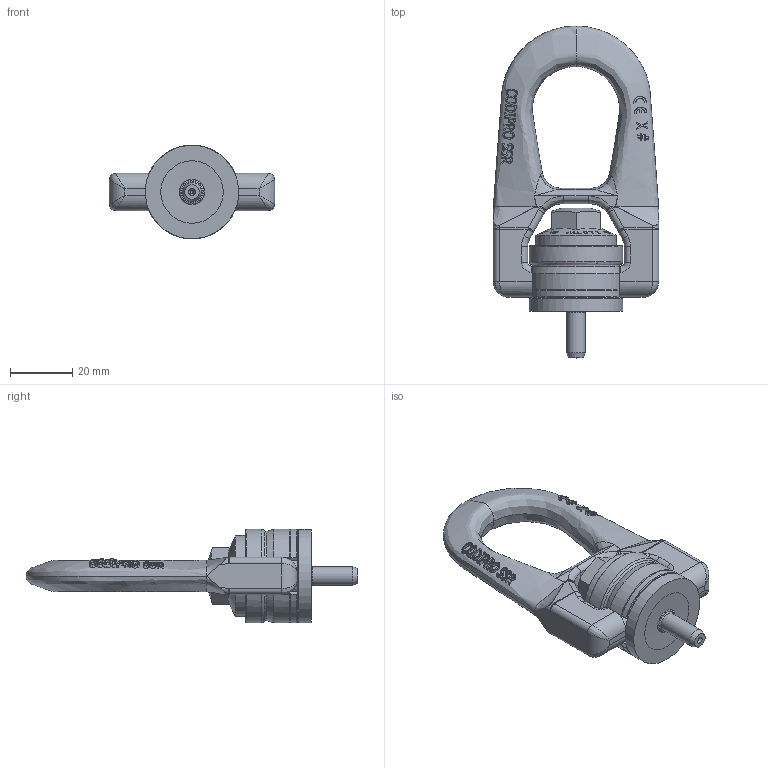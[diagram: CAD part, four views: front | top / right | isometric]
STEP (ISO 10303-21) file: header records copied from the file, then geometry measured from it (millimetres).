
FILE_DESCRIPTION(/* description */ (''),/* implementation_level */ '2;1');
FILE_NAME(/* name */ 'W:\CODIPRO\DOCUMENTS\Plans A NE PAS DIFFUSER !!!\Fichiers STEP\Gamme 2018\Produits NON GRADUP\SS DSR\SS DSR M6.stp',/* time_stamp */ '2017-09-26T13:03:49+02:00',/* author */ ('rklenes'),/* organization */ (''),/* preprocessor_version */ 'ST-DEVELOPER v16.5',/* originating_system */ 'Autodesk Inventor 2017',/* authorisation */ '');
FILE_SCHEMA (('AUTOMOTIVE_DESIGN { 1 0 10303 214 3 1 1 }'));
Products named in the file (5): SS DSR M6; SSB_B1B; SSM_AF1B-1; DRE_D1M8A; SS_DRA_M6X36
Assembly tree (4 placements, depth 2):
  SS DSR M6
    SSB_B1B
    SSM_AF1B-1
    DRE_D1M8A
    SS_DRA_M6X36
Bounding box: 53 x 106.5 x 30 mm (x, y, z)
Volume: 38454 mm3; surface area: 17462 mm2
Topology: 4 solids, 4 shells, 681 faces, 1784 edges, 1142 vertices
Faces by surface type: plane 304, bspline 233, cylinder 83, cone 39, torus 21, sphere 1
Full cylindrical faces by diameter (mm): 1 x1, 6 x1, 8 x3, 8.2 x1, 10 x2, 14.7 x2, 15 x2, 22 x1, 26 x1, 30 x2
Entity records: 38961 total; most frequent: CARTESIAN_POINT 24230, ORIENTED_EDGE 3464, DIRECTION 2306, EDGE_CURVE 1732, VERTEX_POINT 1134, AXIS2_PLACEMENT_3D 834, EDGE_LOOP 762, FACE_OUTER_BOUND 681
